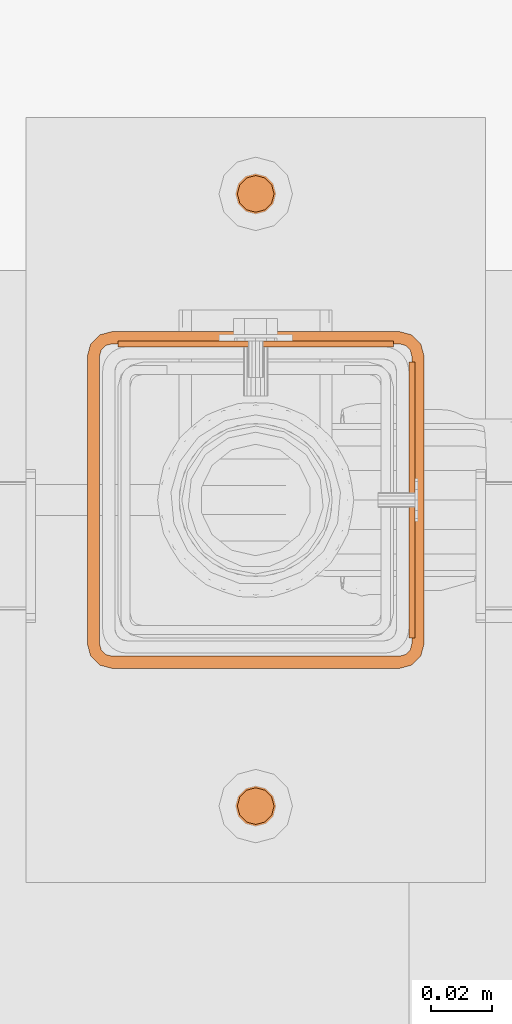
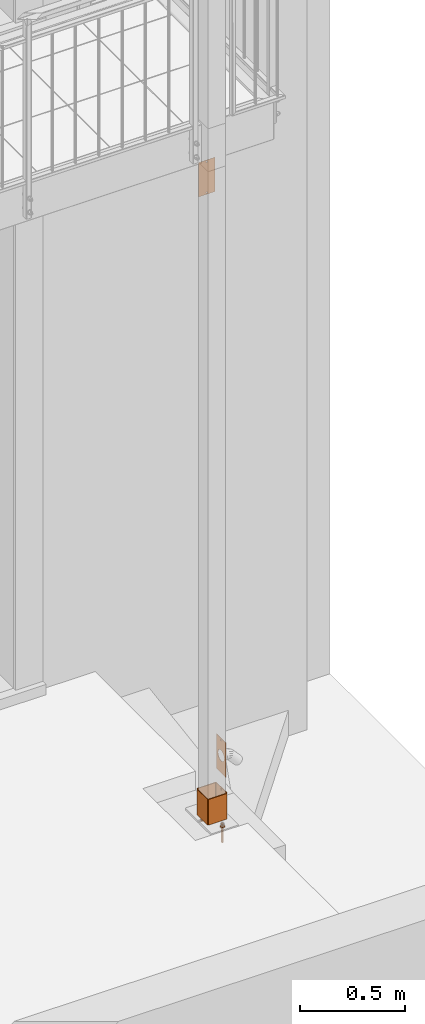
# One storey, part 90 of 162: 5 proxies.
"""IFC2X3 building model written with IfcOpenShell, lengths in millimetres."""

from ifc_helpers import new_model, entity, si_unit, converted_unit, origin_with_axes, place, context, project, spatial, faceted_brep, material, element, save


model = new_model("IFC2X3")

# Units and contexts
model_context = context("Model", 3, precision=1e-09, world=origin_with_axes())
ifc_project = project(units=[si_unit("LENGTHUNIT", "METRE", prefix="MILLI"), si_unit("AREAUNIT", "SQUARE_METRE"), si_unit("VOLUMEUNIT", "CUBIC_METRE"), converted_unit("PLANEANGLEUNIT", "DEGREE", entity("IfcPlaneAngleMeasure", 0.01745329), si_unit("PLANEANGLEUNIT", "RADIAN"), dimensions=[0, 0, 0, 0, 0, 0, 0])], contexts=[model_context])

# Site, building, storey
site_placement = place(None, origin_with_axes())
site = spatial("IfcSite", under=ifc_project, at=site_placement, Name="Hermannstra?e 1a, 60318 Frankfurt", CompositionType="ELEMENT")
building_placement = place(site_placement, origin_with_axes())
building = spatial("IfcBuilding", under=site, at=building_placement, Name="Struktur 1", CompositionType="ELEMENT")
storey_placement = place(building_placement, origin_with_axes())
storey = spatial("IfcBuildingStorey", under=building, at=storey_placement, Name="Default Storey", CompositionType="ELEMENT", Elevation=0.0)

# Proxies
ifc_material = material(Name="Kein")
proxy_1_placement = place(None, origin_with_axes())
element("IfcBuildingElementProxy", 1, at=proxy_1_placement, inside=storey, material=ifc_material, ObjectType="-", context=model_context, shape_type="Brep", body=[
    faceted_brep([(5523.309368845, 1575.609369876, 140.0), (5523.309368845, 1485.609369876, 140.0), (5523.309368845, 1485.609369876, 340.0), (5523.309368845, 1575.609369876, 340.0), (5523.309368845, 1530.609369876, 325.999), (5523.309368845, 1532.609869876, 326.53503236), (5523.309368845, 1534.074337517, 327.9995), (5523.309368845, 1534.610369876, 330.0), (5523.309368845, 1534.074337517, 332.0005), (5523.309368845, 1532.609869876, 333.464967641), (5523.309368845, 1530.609369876, 334.001), (5523.309368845, 1528.608869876, 333.464967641), (5523.309368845, 1527.144402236, 332.0005), (5523.309368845, 1526.608369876, 330.0), (5523.309368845, 1527.144402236, 327.9995), (5523.309368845, 1528.608869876, 326.53503236), (5523.309368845, 1515.108869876, 266.847653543), (5523.309368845, 1506.861226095, 259.927058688), (5523.309368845, 1501.477958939, 250.602966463), (5523.309368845, 1499.608369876, 240.0), (5523.309368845, 1501.477958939, 229.397033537), (5523.309368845, 1506.861226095, 220.072941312), (5523.309368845, 1515.108869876, 213.152346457), (5523.309368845, 1525.22610272, 209.469974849), (5523.309368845, 1535.992637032, 209.469974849), (5523.309368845, 1546.109869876, 213.152346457), (5523.309368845, 1554.357513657, 220.072941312), (5523.309368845, 1559.740780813, 229.397033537), (5523.309368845, 1561.610369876, 240.0), (5523.309368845, 1559.740780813, 250.602966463), (5523.309368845, 1554.357513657, 259.927058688), (5523.309368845, 1546.109869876, 266.847653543), (5523.309368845, 1535.992637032, 270.530025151), (5523.309368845, 1525.22610272, 270.530025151), (5525.309368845, 1528.608869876, 326.53503236), (5525.309368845, 1527.144402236, 327.9995), (5523.309368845, 1527.144402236, 152.0005), (5525.309368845, 1527.144402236, 152.0005), (5525.309368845, 1526.608369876, 150.0), (5523.309368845, 1526.608369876, 150.0), (5525.309368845, 1526.608369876, 330.0), (5525.309368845, 1515.108869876, 266.847653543), (5525.309368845, 1525.22610272, 270.530025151), (5525.309368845, 1530.609369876, 325.999), (5525.309368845, 1485.609369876, 140.0), (5525.309368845, 1575.609369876, 140.0), (5525.309368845, 1575.609369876, 340.0), (5525.309368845, 1485.609369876, 340.0), (5525.309368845, 1527.144402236, 332.0005), (5525.309368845, 1528.608869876, 333.464967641), (5525.309368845, 1530.609369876, 334.001), (5525.309368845, 1532.609869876, 333.464967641), (5525.309368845, 1534.074337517, 332.0005), (5525.309368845, 1534.610369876, 330.0), (5525.309368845, 1534.074337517, 327.9995), (5525.309368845, 1532.609869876, 326.53503236), (5525.309368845, 1546.109869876, 266.847653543), (5525.309368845, 1554.357513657, 259.927058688), (5525.309368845, 1559.740780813, 250.602966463), (5525.309368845, 1561.610369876, 240.0), (5525.309368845, 1559.740780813, 229.397033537), (5525.309368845, 1554.357513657, 220.072941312), (5525.309368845, 1546.109869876, 213.152346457), (5525.309368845, 1535.992637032, 209.469974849), (5525.309368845, 1525.22610272, 209.469974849), (5525.309368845, 1515.108869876, 213.152346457), (5525.309368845, 1506.861226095, 220.072941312), (5525.309368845, 1501.477958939, 229.397033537), (5525.309368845, 1499.608369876, 240.0), (5525.309368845, 1501.477958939, 250.602966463), (5525.309368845, 1506.861226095, 259.927058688), (5525.309368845, 1535.992637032, 270.530025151), (5523.309368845, 1528.608869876, 153.464967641), (5525.309368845, 1528.608869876, 153.464967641), (5525.309368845, 1527.144402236, 147.9995), (5523.309368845, 1527.144402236, 147.9995), (5523.309368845, 1530.609369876, 154.001), (5525.309368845, 1530.609369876, 154.001), (5525.309368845, 1528.608869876, 146.53503236), (5523.309368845, 1528.608869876, 146.53503236), (5523.309368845, 1532.609869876, 153.464967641), (5525.309368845, 1532.609869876, 153.464967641), (5525.309368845, 1530.609369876, 145.999), (5523.309368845, 1530.609369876, 145.999), (5525.309368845, 1532.609869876, 146.53503236), (5523.309368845, 1532.609869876, 146.53503236), (5523.309368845, 1534.074337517, 152.0005), (5525.309368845, 1534.074337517, 152.0005), (5525.309368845, 1534.074337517, 147.9995), (5523.309368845, 1534.074337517, 147.9995), (5523.309368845, 1534.610369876, 150.0), (5525.309368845, 1534.610369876, 150.0)], [[[0, 1, 2, 3], [4, 5, 6, 7, 8, 9, 10, 11, 12, 13, 14, 15], [16, 17, 18, 19, 20, 21, 22, 23, 24, 25, 26, 27, 28, 29, 30, 31, 32, 33]], [[34, 15, 14, 35]], [[36, 37, 38, 39]], [[35, 14, 13, 40]], [[41, 16, 33, 42]], [[15, 34, 43, 4]], [[44, 45, 46, 47], [35, 40, 48, 49, 50, 51, 52, 53, 54, 55, 43, 34], [56, 57, 58, 59, 60, 61, 62, 63, 64, 65, 66, 67, 68, 69, 70, 41, 42, 71]], [[72, 73, 37, 36]], [[65, 22, 21, 66]], [[16, 41, 70, 17]], [[39, 38, 74, 75]], [[66, 21, 20, 67]], [[73, 72, 76, 77]], [[22, 65, 64, 23]], [[17, 70, 69, 18]], [[40, 13, 12, 48]], [[55, 5, 4, 43]], [[42, 33, 32, 71]], [[75, 74, 78, 79]], [[67, 20, 19, 68]], [[68, 19, 18, 69]], [[80, 81, 77, 76]], [[48, 12, 11, 49]], [[5, 55, 54, 6]], [[79, 78, 82, 83]], [[23, 64, 63, 24]], [[83, 82, 84, 85]], [[81, 80, 86, 87]], [[51, 9, 8, 52]], [[49, 11, 10, 50]], [[50, 10, 9, 51]], [[52, 8, 7, 53]], [[53, 7, 6, 54]], [[71, 32, 31, 56]], [[85, 84, 88, 89]], [[2, 1, 44, 47]], [[24, 63, 62, 25]], [[90, 91, 87, 86]], [[89, 88, 91, 90]], [[56, 31, 30, 57]], [[45, 44, 1, 0]], [[3, 2, 47, 46]], [[25, 62, 61, 26]], [[57, 30, 29, 58]], [[46, 45, 0, 3]], [[26, 61, 60, 27]], [[58, 29, 28, 59]], [[27, 60, 59, 28]]]),
])
proxy_2_placement = place(None, origin_with_axes())
element("IfcBuildingElementProxy", 2, at=proxy_2_placement, inside=storey, material=ifc_material, ObjectType="-", context=model_context, shape_type="Brep", body=[
    faceted_brep([(5469.30836482, 1582.609373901, 3515.0), (5469.30836482, 1580.609373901, 3515.0), (5469.844397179, 1580.609373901, 3512.9995), (5469.844397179, 1582.609373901, 3512.9995), (5471.30886482, 1580.609373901, 3511.535032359), (5471.30886482, 1582.609373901, 3511.535032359), (5469.844397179, 1582.609373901, 3517.0005), (5469.844397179, 1580.609373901, 3517.0005), (5471.30886482, 1582.609373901, 3518.464967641), (5471.30886482, 1580.609373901, 3518.464967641), (5428.30936482, 1580.609373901, 3705.0), (5428.30936482, 1580.609373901, 3505.0), (5518.30936482, 1580.609373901, 3505.0), (5518.30936482, 1580.609373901, 3705.0), (5471.30886482, 1580.609373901, 3691.535032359), (5469.844397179, 1580.609373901, 3692.9995), (5469.30836482, 1580.609373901, 3695.0), (5469.844397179, 1580.609373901, 3697.0005), (5471.30886482, 1580.609373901, 3698.464967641), (5473.30936482, 1580.609373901, 3699.001), (5475.30986482, 1580.609373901, 3698.464967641), (5476.77433246, 1580.609373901, 3697.0005), (5477.31036482, 1580.609373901, 3695.0), (5476.77433246, 1580.609373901, 3692.9995), (5475.30986482, 1580.609373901, 3691.535032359), (5473.30936482, 1580.609373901, 3690.999), (5473.30936482, 1580.609373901, 3519.001), (5475.30986482, 1580.609373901, 3518.464967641), (5476.77433246, 1580.609373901, 3517.0005), (5477.31036482, 1580.609373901, 3515.0), (5476.77433246, 1580.609373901, 3512.9995), (5475.30986482, 1580.609373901, 3511.535032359), (5473.30936482, 1580.609373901, 3510.999), (5469.844397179, 1582.609373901, 3692.9995), (5471.30886482, 1582.609373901, 3691.535032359), (5428.30936482, 1582.609373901, 3705.0), (5518.30936482, 1582.609373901, 3705.0), (5518.30936482, 1582.609373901, 3505.0), (5428.30936482, 1582.609373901, 3505.0), (5473.30936482, 1582.609373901, 3510.999), (5475.30986482, 1582.609373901, 3511.535032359), (5476.77433246, 1582.609373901, 3512.9995), (5477.31036482, 1582.609373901, 3515.0), (5476.77433246, 1582.609373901, 3517.0005), (5475.30986482, 1582.609373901, 3518.464967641), (5473.30936482, 1582.609373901, 3519.001), (5476.77433246, 1582.609373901, 3692.9995), (5477.31036482, 1582.609373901, 3695.0), (5476.77433246, 1582.609373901, 3697.0005), (5475.30986482, 1582.609373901, 3698.464967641), (5473.30936482, 1582.609373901, 3699.001), (5471.30886482, 1582.609373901, 3698.464967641), (5469.844397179, 1582.609373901, 3697.0005), (5469.30836482, 1582.609373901, 3695.0), (5473.30936482, 1582.609373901, 3690.999), (5475.30986482, 1582.609373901, 3691.535032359)], [[[0, 1, 2, 3]], [[3, 2, 4, 5]], [[1, 0, 6, 7]], [[7, 6, 8, 9]], [[10, 11, 12, 13], [14, 15, 16, 17, 18, 19, 20, 21, 22, 23, 24, 25], [1, 7, 9, 26, 27, 28, 29, 30, 31, 32, 4, 2]], [[33, 15, 14, 34]], [[35, 36, 37, 38], [0, 3, 5, 39, 40, 41, 42, 43, 44, 45, 8, 6], [46, 47, 48, 49, 50, 51, 52, 53, 33, 34, 54, 55]], [[15, 33, 53, 16]], [[5, 4, 32, 39]], [[9, 8, 45, 26]], [[16, 53, 52, 17]], [[39, 32, 31, 40]], [[34, 14, 25, 54]], [[17, 52, 51, 18]], [[11, 10, 35, 38]], [[40, 31, 30, 41]], [[26, 45, 44, 27]], [[18, 51, 50, 19]], [[38, 37, 12, 11]], [[41, 30, 29, 42]], [[28, 43, 42, 29]], [[27, 44, 43, 28]], [[54, 25, 24, 55]], [[10, 13, 36, 35]], [[13, 12, 37, 36]], [[19, 50, 49, 20]], [[55, 24, 23, 46]], [[20, 49, 48, 21]], [[46, 23, 22, 47]], [[21, 48, 47, 22]]]),
])
proxy_3_placement = place(None, origin_with_axes())
element("IfcBuildingElementProxy", 3, at=proxy_3_placement, inside=storey, material=ifc_material, ObjectType="-", context=model_context, shape_type="Brep", body=[
    faceted_brep([(5478.505517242, 1627.609373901, -93.0), (5478.505517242, 1627.609373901, -77.5), (5476.30936482, 1625.413221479, -77.5), (5476.30936482, 1625.413221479, -93.0), (5467.30936482, 1620.217069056, -93.0), (5473.30936482, 1618.609373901, -93.0), (5479.30936482, 1620.217069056, -93.0), (5483.701669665, 1624.609373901, -93.0), (5485.30936482, 1630.609373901, -93.0), (5483.701669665, 1636.609373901, -93.0), (5479.30936482, 1641.001678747, -93.0), (5473.30936482, 1642.609373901, -93.0), (5467.30936482, 1641.001678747, -93.0), (5462.917059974, 1636.609373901, -93.0), (5461.30936482, 1630.609373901, -93.0), (5462.917059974, 1624.609373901, -93.0), (5473.30936482, 1624.609373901, -93.0), (5470.30936482, 1625.413221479, -93.0), (5468.113212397, 1627.609373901, -93.0), (5467.30936482, 1630.609373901, -93.0), (5468.113212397, 1633.609373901, -93.0), (5470.30936482, 1635.805526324, -93.0), (5473.30936482, 1636.609373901, -93.0), (5476.30936482, 1635.805526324, -93.0), (5478.505517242, 1633.609373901, -93.0), (5479.30936482, 1630.609373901, -93.0), (5479.30936482, 1630.609373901, -77.5), (5479.30936482, 1620.217069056, -95.5), (5483.701669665, 1624.609373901, -95.5), (5470.30936482, 1635.805526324, -77.5), (5468.113212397, 1633.609373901, -77.5), (5467.30936482, 1630.609373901, -77.5), (5468.113212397, 1627.609373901, -77.5), (5470.30936482, 1625.413221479, -77.5), (5473.30936482, 1624.609373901, -77.5), (5478.505517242, 1633.609373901, -77.5), (5476.30936482, 1635.805526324, -77.5), (5473.30936482, 1636.609373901, -77.5), (5483.701669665, 1636.609373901, -95.5), (5485.30936482, 1630.609373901, -95.5), (5473.30936482, 1618.609373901, -95.5), (5467.30936482, 1620.217069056, -95.5), (5462.917059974, 1624.609373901, -95.5), (5461.30936482, 1630.609373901, -95.5), (5462.917059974, 1636.609373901, -95.5), (5467.30936482, 1641.001678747, -95.5), (5473.30936482, 1642.609373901, -95.5), (5479.30936482, 1641.001678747, -95.5), (5479.30936482, 1630.609373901, -95.5), (5478.505517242, 1633.609373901, -95.5), (5476.30936482, 1635.805526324, -95.5), (5473.30936482, 1636.609373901, -95.5), (5470.30936482, 1635.805526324, -95.5), (5468.113212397, 1633.609373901, -95.5), (5467.30936482, 1630.609373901, -95.5), (5468.113212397, 1627.609373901, -95.5), (5470.30936482, 1625.413221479, -95.5), (5473.30936482, 1624.609373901, -95.5), (5476.30936482, 1625.413221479, -95.5), (5478.505517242, 1627.609373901, -95.5), (5478.505517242, 1627.609373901, -187.5), (5479.30936482, 1630.609373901, -187.5), (5476.30936482, 1625.413221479, -187.5), (5473.30936482, 1624.609373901, -187.5), (5470.30936482, 1625.413221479, -187.5), (5468.113212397, 1627.609373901, -187.5), (5467.30936482, 1630.609373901, -187.5), (5468.113212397, 1633.609373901, -187.5), (5470.30936482, 1635.805526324, -187.5), (5473.30936482, 1636.609373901, -187.5), (5476.30936482, 1635.805526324, -187.5), (5478.505517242, 1633.609373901, -187.5)], [[[0, 1, 2, 3]], [[4, 5, 6, 7, 8, 9, 10, 11, 12, 13, 14, 15], [3, 16, 17, 18, 19, 20, 21, 22, 23, 24, 25, 0]], [[1, 0, 25, 26]], [[6, 27, 28, 7]], [[29, 30, 31, 32, 33, 34, 2, 1, 26, 35, 36, 37]], [[38, 39, 28, 27, 40, 41, 42, 43, 44, 45, 46, 47], [48, 49, 50, 51, 52, 53, 54, 55, 56, 57, 58, 59]], [[27, 6, 5, 40]], [[3, 2, 34, 16]], [[7, 28, 39, 8]], [[26, 25, 24, 35]], [[59, 60, 61, 48]], [[58, 62, 60, 59]], [[57, 63, 62, 58]], [[56, 64, 63, 57]], [[40, 5, 4, 41]], [[16, 34, 33, 17]], [[35, 24, 23, 36]], [[64, 65, 66, 67, 68, 69, 70, 71, 61, 60, 62, 63]], [[48, 61, 71, 49]], [[8, 39, 38, 9]], [[64, 56, 55, 65]], [[36, 23, 22, 37]], [[65, 55, 54, 66]], [[41, 4, 15, 42]], [[17, 33, 32, 18]], [[70, 50, 49, 71]], [[9, 38, 47, 10]], [[37, 22, 21, 29]], [[50, 70, 69, 51]], [[68, 52, 51, 69]], [[67, 53, 52, 68]], [[66, 54, 53, 67]], [[42, 15, 14, 43]], [[18, 32, 31, 19]], [[10, 47, 46, 11]], [[30, 20, 19, 31]], [[29, 21, 20, 30]], [[43, 14, 13, 44]], [[11, 46, 45, 12]], [[44, 13, 12, 45]]]),
])
proxy_4_placement = place(None, origin_with_axes())
element("IfcBuildingElementProxy", 4, at=proxy_4_placement, inside=storey, material=ifc_material, ObjectType="-", context=model_context, shape_type="Brep", body=[
    faceted_brep([(5478.505517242, 1427.609373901, -93.0), (5478.505517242, 1427.609373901, -77.5), (5476.30936482, 1425.413221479, -77.5), (5476.30936482, 1425.413221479, -93.0), (5467.30936482, 1420.217069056, -93.0), (5473.30936482, 1418.609373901, -93.0), (5479.30936482, 1420.217069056, -93.0), (5483.701669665, 1424.609373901, -93.0), (5485.30936482, 1430.609373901, -93.0), (5483.701669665, 1436.609373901, -93.0), (5479.30936482, 1441.001678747, -93.0), (5473.30936482, 1442.609373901, -93.0), (5467.30936482, 1441.001678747, -93.0), (5462.917059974, 1436.609373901, -93.0), (5461.30936482, 1430.609373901, -93.0), (5462.917059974, 1424.609373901, -93.0), (5473.30936482, 1424.609373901, -93.0), (5470.30936482, 1425.413221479, -93.0), (5468.113212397, 1427.609373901, -93.0), (5467.30936482, 1430.609373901, -93.0), (5468.113212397, 1433.609373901, -93.0), (5470.30936482, 1435.805526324, -93.0), (5473.30936482, 1436.609373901, -93.0), (5476.30936482, 1435.805526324, -93.0), (5478.505517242, 1433.609373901, -93.0), (5479.30936482, 1430.609373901, -93.0), (5479.30936482, 1430.609373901, -77.5), (5479.30936482, 1420.217069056, -95.5), (5483.701669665, 1424.609373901, -95.5), (5470.30936482, 1435.805526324, -77.5), (5468.113212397, 1433.609373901, -77.5), (5467.30936482, 1430.609373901, -77.5), (5468.113212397, 1427.609373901, -77.5), (5470.30936482, 1425.413221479, -77.5), (5473.30936482, 1424.609373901, -77.5), (5478.505517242, 1433.609373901, -77.5), (5476.30936482, 1435.805526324, -77.5), (5473.30936482, 1436.609373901, -77.5), (5483.701669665, 1436.609373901, -95.5), (5485.30936482, 1430.609373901, -95.5), (5473.30936482, 1418.609373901, -95.5), (5467.30936482, 1420.217069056, -95.5), (5462.917059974, 1424.609373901, -95.5), (5461.30936482, 1430.609373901, -95.5), (5462.917059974, 1436.609373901, -95.5), (5467.30936482, 1441.001678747, -95.5), (5473.30936482, 1442.609373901, -95.5), (5479.30936482, 1441.001678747, -95.5), (5479.30936482, 1430.609373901, -95.5), (5478.505517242, 1433.609373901, -95.5), (5476.30936482, 1435.805526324, -95.5), (5473.30936482, 1436.609373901, -95.5), (5470.30936482, 1435.805526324, -95.5), (5468.113212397, 1433.609373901, -95.5), (5467.30936482, 1430.609373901, -95.5), (5468.113212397, 1427.609373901, -95.5), (5470.30936482, 1425.413221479, -95.5), (5473.30936482, 1424.609373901, -95.5), (5476.30936482, 1425.413221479, -95.5), (5478.505517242, 1427.609373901, -95.5), (5478.505517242, 1427.609373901, -187.5), (5479.30936482, 1430.609373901, -187.5), (5476.30936482, 1425.413221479, -187.5), (5473.30936482, 1424.609373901, -187.5), (5470.30936482, 1425.413221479, -187.5), (5468.113212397, 1427.609373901, -187.5), (5467.30936482, 1430.609373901, -187.5), (5468.113212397, 1433.609373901, -187.5), (5470.30936482, 1435.805526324, -187.5), (5473.30936482, 1436.609373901, -187.5), (5476.30936482, 1435.805526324, -187.5), (5478.505517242, 1433.609373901, -187.5)], [[[0, 1, 2, 3]], [[4, 5, 6, 7, 8, 9, 10, 11, 12, 13, 14, 15], [3, 16, 17, 18, 19, 20, 21, 22, 23, 24, 25, 0]], [[1, 0, 25, 26]], [[6, 27, 28, 7]], [[29, 30, 31, 32, 33, 34, 2, 1, 26, 35, 36, 37]], [[38, 39, 28, 27, 40, 41, 42, 43, 44, 45, 46, 47], [48, 49, 50, 51, 52, 53, 54, 55, 56, 57, 58, 59]], [[27, 6, 5, 40]], [[3, 2, 34, 16]], [[7, 28, 39, 8]], [[26, 25, 24, 35]], [[59, 60, 61, 48]], [[58, 62, 60, 59]], [[57, 63, 62, 58]], [[56, 64, 63, 57]], [[40, 5, 4, 41]], [[16, 34, 33, 17]], [[35, 24, 23, 36]], [[64, 65, 66, 67, 68, 69, 70, 71, 61, 60, 62, 63]], [[48, 61, 71, 49]], [[8, 39, 38, 9]], [[64, 56, 55, 65]], [[36, 23, 22, 37]], [[65, 55, 54, 66]], [[41, 4, 15, 42]], [[17, 33, 32, 18]], [[70, 50, 49, 71]], [[9, 38, 47, 10]], [[37, 22, 21, 29]], [[50, 70, 69, 51]], [[68, 52, 51, 69]], [[67, 53, 52, 68]], [[66, 54, 53, 67]], [[42, 15, 14, 43]], [[18, 32, 31, 19]], [[10, 47, 46, 11]], [[30, 20, 19, 31]], [[29, 21, 20, 30]], [[43, 14, 13, 44]], [[11, 46, 45, 12]], [[44, 13, 12, 45]]]),
])
proxy_5_placement = place(None, origin_with_axes())
element("IfcBuildingElementProxy", 5, at=proxy_5_placement, inside=storey, material=ifc_material, ObjectType="-", context=model_context, shape_type="Brep", body=[
    faceted_brep([(5422.30936482, 1476.681170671, -98.0), (5422.30936482, 1476.681170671, 52.0), (5419.381161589, 1479.609373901, 52.0), (5419.381161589, 1479.609373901, -98.0), (5426.30936482, 1475.609373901, 52.0), (5520.30936482, 1475.609373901, 52.0), (5524.30936482, 1476.681170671, 52.0), (5527.23756805, 1479.609373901, 52.0), (5528.30936482, 1483.609373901, 52.0), (5528.30936482, 1577.609373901, 52.0), (5527.23756805, 1581.609373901, 52.0), (5524.30936482, 1584.537577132, 52.0), (5520.30936482, 1585.609373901, 52.0), (5426.30936482, 1585.609373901, 52.0), (5422.30936482, 1584.537577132, 52.0), (5419.381161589, 1581.609373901, 52.0), (5418.30936482, 1577.609373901, 52.0), (5418.30936482, 1483.609373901, 52.0), (5426.30936482, 1479.609373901, 52.0), (5424.30936482, 1480.145272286, 52.0), (5422.845263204, 1481.609373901, 52.0), (5422.30936482, 1483.609373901, 52.0), (5422.30936482, 1577.609373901, 52.0), (5422.845263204, 1579.609373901, 52.0), (5424.30936482, 1581.073475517, 52.0), (5426.30936482, 1581.609373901, 52.0), (5520.30936482, 1581.609373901, 52.0), (5522.30936482, 1581.073475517, 52.0), (5523.773466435, 1579.609373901, 52.0), (5524.30936482, 1577.609373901, 52.0), (5524.30936482, 1483.609373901, 52.0), (5523.773466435, 1481.609373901, 52.0), (5522.30936482, 1480.145272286, 52.0), (5520.30936482, 1479.609373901, 52.0), (5422.845263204, 1481.609373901, -98.0), (5424.30936482, 1480.145272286, -98.0), (5520.30936482, 1475.609373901, -98.0), (5426.30936482, 1475.609373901, -98.0), (5418.30936482, 1483.609373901, -98.0), (5418.30936482, 1577.609373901, -98.0), (5419.381161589, 1581.609373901, -98.0), (5422.30936482, 1584.537577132, -98.0), (5426.30936482, 1585.609373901, -98.0), (5520.30936482, 1585.609373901, -98.0), (5524.30936482, 1584.537577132, -98.0), (5527.23756805, 1581.609373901, -98.0), (5528.30936482, 1577.609373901, -98.0), (5528.30936482, 1483.609373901, -98.0), (5527.23756805, 1479.609373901, -98.0), (5524.30936482, 1476.681170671, -98.0), (5426.30936482, 1479.609373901, -98.0), (5520.30936482, 1479.609373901, -98.0), (5522.30936482, 1480.145272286, -98.0), (5523.773466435, 1481.609373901, -98.0), (5524.30936482, 1483.609373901, -98.0), (5524.30936482, 1577.609373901, -98.0), (5523.773466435, 1579.609373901, -98.0), (5522.30936482, 1581.073475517, -98.0), (5520.30936482, 1581.609373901, -98.0), (5426.30936482, 1581.609373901, -98.0), (5424.30936482, 1581.073475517, -98.0), (5422.845263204, 1579.609373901, -98.0), (5422.30936482, 1577.609373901, -98.0), (5422.30936482, 1483.609373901, -98.0), (5528.30936482, 1525.608373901, 42.0), (5524.30936482, 1525.608373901, 42.0), (5524.30936482, 1526.278380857, 44.5005), (5528.30936482, 1526.278380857, 44.5005), (5528.30936482, 1526.278380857, 39.4995), (5524.30936482, 1526.278380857, 39.4995), (5524.30936482, 1528.108873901, 46.330993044), (5528.30936482, 1528.108873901, 46.330993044), (5528.30936482, 1528.108873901, 37.669006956), (5528.30936482, 1530.609373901, 47.001), (5528.30936482, 1533.109873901, 46.330993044), (5528.30936482, 1534.940366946, 44.5005), (5528.30936482, 1535.610373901, 42.0), (5528.30936482, 1534.940366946, 39.4995), (5528.30936482, 1533.109873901, 37.669006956), (5528.30936482, 1530.609373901, 36.999), (5524.30936482, 1528.108873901, 37.669006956), (5524.30936482, 1530.609373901, 36.999), (5524.30936482, 1533.109873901, 37.669006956), (5524.30936482, 1534.940366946, 39.4995), (5524.30936482, 1535.610373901, 42.0), (5524.30936482, 1534.940366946, 44.5005), (5524.30936482, 1533.109873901, 46.330993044), (5524.30936482, 1530.609373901, 47.001)], [[[0, 1, 2, 3]], [[1, 4, 5, 6, 7, 8, 9, 10, 11, 12, 13, 14, 15, 16, 17, 2], [18, 19, 20, 21, 22, 23, 24, 25, 26, 27, 28, 29, 30, 31, 32, 33]], [[34, 20, 19, 35]], [[36, 37, 0, 3, 38, 39, 40, 41, 42, 43, 44, 45, 46, 47, 48, 49], [35, 50, 51, 52, 53, 54, 55, 56, 57, 58, 59, 60, 61, 62, 63, 34]], [[1, 0, 37, 4]], [[20, 34, 63, 21]], [[3, 2, 17, 38]], [[35, 19, 18, 50]], [[37, 36, 5, 4]], [[63, 62, 22, 21]], [[17, 16, 39, 38]], [[18, 33, 51, 50]], [[5, 36, 49, 6]], [[22, 62, 61, 23]], [[39, 16, 15, 40]], [[64, 65, 66, 67]], [[51, 33, 32, 52]], [[65, 64, 68, 69]], [[67, 66, 70, 71]], [[8, 47, 46, 9], [72, 68, 64, 67, 71, 73, 74, 75, 76, 77, 78, 79]], [[6, 49, 48, 7]], [[52, 32, 31, 53]], [[30, 29, 55, 54], [70, 66, 65, 69, 80, 81, 82, 83, 84, 85, 86, 87]], [[23, 61, 60, 24]], [[40, 15, 14, 41]], [[71, 70, 87, 73]], [[73, 87, 86, 74]], [[30, 54, 53, 31]], [[69, 68, 72, 80]], [[74, 86, 85, 75]], [[7, 48, 47, 8]], [[80, 72, 79, 81]], [[81, 79, 78, 82]], [[24, 60, 59, 25]], [[41, 14, 13, 42]], [[75, 85, 84, 76]], [[83, 77, 76, 84]], [[82, 78, 77, 83]], [[59, 58, 26, 25]], [[13, 12, 43, 42]], [[26, 58, 57, 27]], [[55, 29, 28, 56]], [[56, 28, 27, 57]], [[43, 12, 11, 44]], [[9, 46, 45, 10]], [[44, 11, 10, 45]]]),
])

save(model, "model.ifc")
